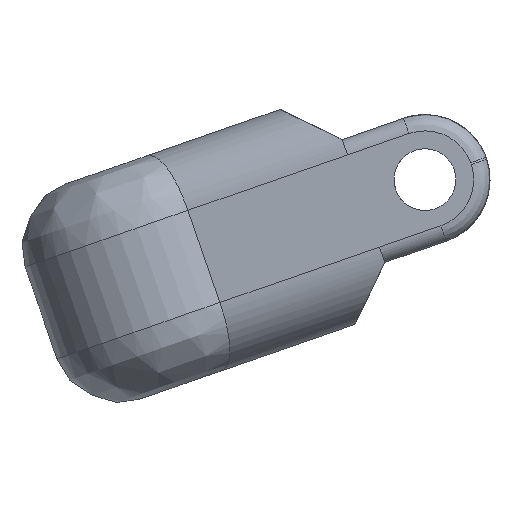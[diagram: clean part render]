
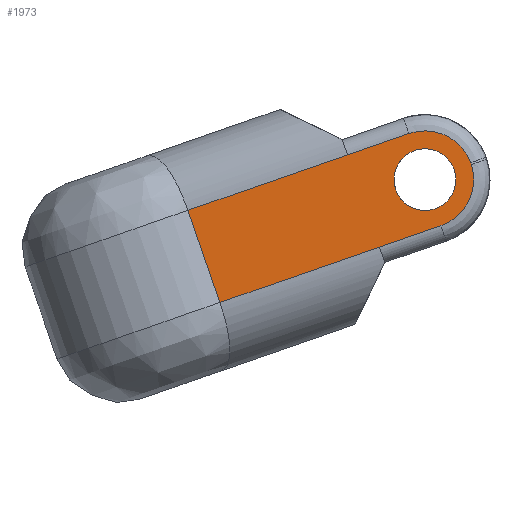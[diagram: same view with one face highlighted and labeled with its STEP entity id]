
A CAD part, left-side view. The second image highlights one B-rep face of the part: STEP entity #1973.
In plain terms, the highlighted planar face has unit normal (-1, 0, 0).
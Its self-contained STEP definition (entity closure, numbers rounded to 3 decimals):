
#42=FACE_BOUND('',#650,.T.);
#103=LINE('',#2906,#272);
#143=LINE('',#3231,#312);
#153=LINE('',#3256,#322);
#154=LINE('',#3259,#323);
#155=LINE('',#3263,#324);
#156=LINE('',#3266,#325);
#272=VECTOR('',#2350,10.);
#312=VECTOR('',#2456,10.);
#322=VECTOR('',#2484,10.);
#323=VECTOR('',#2487,10.);
#324=VECTOR('',#2490,10.);
#325=VECTOR('',#2493,10.);
#518=FACE_OUTER_BOUND('',#649,.T.);
#649=EDGE_LOOP('',(#1441,#1442,#1443,#1444,#1445,#1446,#1447,#1448));
#650=EDGE_LOOP('',(#1449));
#776=CIRCLE('',#2157,1.5);
#777=CIRCLE('',#2158,1.5);
#778=CIRCLE('',#2159,0.95);
#835=VERTEX_POINT('',#2904);
#836=VERTEX_POINT('',#2905);
#888=VERTEX_POINT('',#3205);
#892=VERTEX_POINT('',#3229);
#899=VERTEX_POINT('',#3258);
#900=VERTEX_POINT('',#3260);
#901=VERTEX_POINT('',#3262);
#902=VERTEX_POINT('',#3264);
#903=VERTEX_POINT('',#3267);
#1014=EDGE_CURVE('',#835,#836,#103,.T.);
#1085=EDGE_CURVE('',#892,#888,#143,.T.);
#1098=EDGE_CURVE('',#888,#835,#153,.T.);
#1099=EDGE_CURVE('',#892,#899,#154,.T.);
#1100=EDGE_CURVE('',#899,#900,#776,.T.);
#1101=EDGE_CURVE('',#900,#901,#155,.T.);
#1102=EDGE_CURVE('',#901,#902,#777,.T.);
#1103=EDGE_CURVE('',#902,#836,#156,.T.);
#1104=EDGE_CURVE('',#903,#903,#778,.T.);
#1441=ORIENTED_EDGE('',*,*,#1014,.F.);
#1442=ORIENTED_EDGE('',*,*,#1098,.F.);
#1443=ORIENTED_EDGE('',*,*,#1085,.F.);
#1444=ORIENTED_EDGE('',*,*,#1099,.T.);
#1445=ORIENTED_EDGE('',*,*,#1100,.T.);
#1446=ORIENTED_EDGE('',*,*,#1101,.T.);
#1447=ORIENTED_EDGE('',*,*,#1102,.T.);
#1448=ORIENTED_EDGE('',*,*,#1103,.T.);
#1449=ORIENTED_EDGE('',*,*,#1104,.F.);
#1891=PLANE('',#2156);
#1973=ADVANCED_FACE('',(#518,#42),#1891,.F.);
#2156=AXIS2_PLACEMENT_3D('',#3257,#2485,#2486);
#2157=AXIS2_PLACEMENT_3D('',#3261,#2488,#2489);
#2158=AXIS2_PLACEMENT_3D('',#3265,#2491,#2492);
#2159=AXIS2_PLACEMENT_3D('',#3268,#2494,#2495);
#2350=DIRECTION('',(0.,-1.,0.));
#2456=DIRECTION('',(0.,1.,0.));
#2484=DIRECTION('',(0.,0.,1.));
#2485=DIRECTION('center_axis',(1.,0.,0.));
#2486=DIRECTION('ref_axis',(0.,1.,0.));
#2487=DIRECTION('',(0.,-1.,0.));
#2488=DIRECTION('center_axis',(-1.,0.,0.));
#2489=DIRECTION('ref_axis',(0.,-1.,0.));
#2490=DIRECTION('',(0.,0.,1.));
#2491=DIRECTION('center_axis',(-1.,0.,0.));
#2492=DIRECTION('ref_axis',(0.,-1.,0.));
#2493=DIRECTION('',(0.,1.,0.));
#2494=DIRECTION('center_axis',(-1.,0.,0.));
#2495=DIRECTION('ref_axis',(0.,-1.,0.));
#2904=CARTESIAN_POINT('',(-27.969,21.108,1.5));
#2905=CARTESIAN_POINT('',(-27.969,15.912,1.5));
#2906=CARTESIAN_POINT('',(-27.969,15.537,1.5));
#3205=CARTESIAN_POINT('',(-27.969,21.108,-1.5));
#3229=CARTESIAN_POINT('',(-27.969,15.912,-1.5));
#3231=CARTESIAN_POINT('',(-27.969,15.537,-1.5));
#3256=CARTESIAN_POINT('',(-27.969,21.108,0.));
#3257=CARTESIAN_POINT('Origin',(-27.969,11.912,0.));
#3258=CARTESIAN_POINT('',(-27.969,13.912,-1.5));
#3259=CARTESIAN_POINT('',(-27.969,13.912,-1.5));
#3260=CARTESIAN_POINT('',(-27.969,12.412,-0.028));
#3261=CARTESIAN_POINT('Origin',(-27.969,13.912,0.));
#3262=CARTESIAN_POINT('',(-27.969,12.412,0.028));
#3263=CARTESIAN_POINT('',(-27.969,12.412,0.));
#3264=CARTESIAN_POINT('',(-27.969,13.912,1.5));
#3265=CARTESIAN_POINT('Origin',(-27.969,13.912,0.));
#3266=CARTESIAN_POINT('',(-27.969,12.912,1.5));
#3267=CARTESIAN_POINT('',(-27.969,14.862,0.));
#3268=CARTESIAN_POINT('Origin',(-27.969,13.912,0.));
